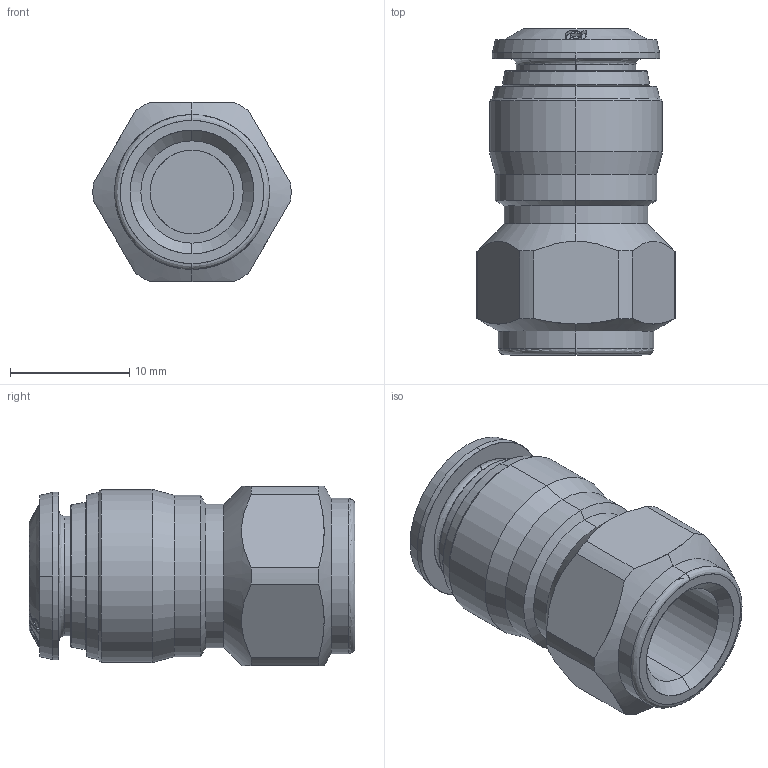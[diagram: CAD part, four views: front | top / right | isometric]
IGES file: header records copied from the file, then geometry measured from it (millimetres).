
Start section: SolidWorks IGES file using analytic representation for surfaces
Global section: file name: K:\Disegni Esecutivi\Serie 50000\ASSIEMI_50000\50030\ASSIEMI_.IGES_50030\5003000004A.IGS; native system: SolidWorks 2007; preprocessor: SolidWorks 2007; author: cad02; date: 071120.080052; units: millimetre
Bounding box: 16.59 x 27.3 x 15 mm (x, y, z)
Surface area: 2362.8 mm2 (no closed solid volume)
Topology: 0 solids, 0 shells, 220 faces, 2486 edges, 2486 vertices
Faces by surface type: bspline 137, revolution 83
